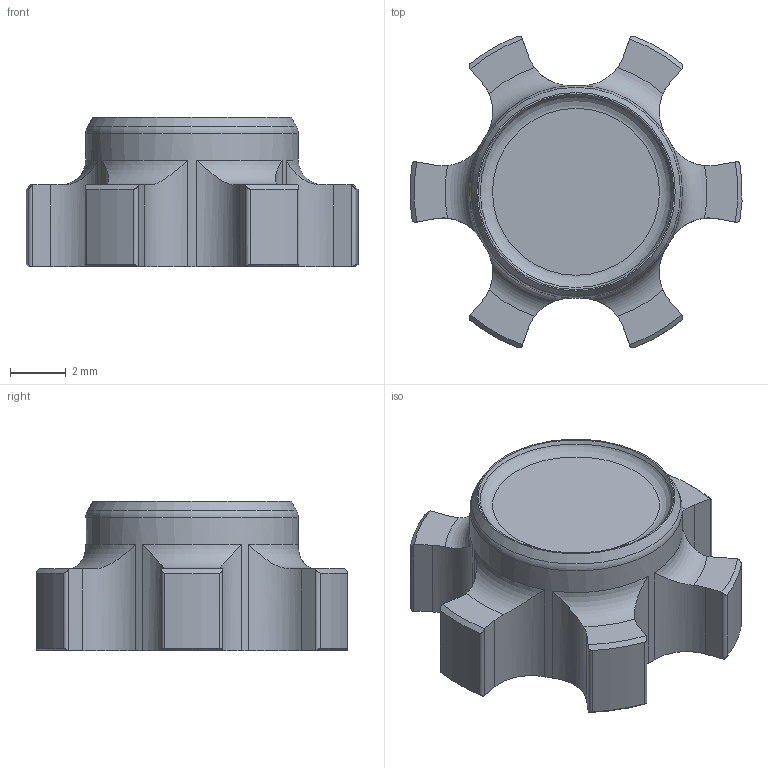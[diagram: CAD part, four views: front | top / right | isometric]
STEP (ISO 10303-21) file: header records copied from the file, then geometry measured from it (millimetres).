
FILE_DESCRIPTION(/* description */ (''),/* implementation_level */ '2;1');
FILE_NAME(/* name */ 'Knife Edge Check Valve Poppet.step',/* time_stamp */ '2026-05-22T17:14:57-04:00',/* author */ (''),/* organization */ (''),/* preprocessor_version */ 'ST-DEVELOPER v20.1',/* originating_system */ 'Autodesk Translation Framework v15.8.0.0',/* authorisation */ '');
FILE_SCHEMA (('AUTOMOTIVE_DESIGN { 1 0 10303 214 3 1 1 }'));
Length unit declared in the file: inch
Products named in the file (1): Knife Edge Check Valve Poppet
Bounding box: 11.89 x 11.17 x 5.34 mm (x, y, z)
Volume: 311.3 mm3; surface area: 337.3 mm2
Topology: 1 solids, 1 shells, 74 faces, 213 edges, 142 vertices
Faces by surface type: cylinder 31, plane 21, cone 14, torus 8
Full cylindrical faces by diameter (mm): 7.62 x1
Entity records: 2802 total; most frequent: CARTESIAN_POINT 802, ORIENTED_EDGE 426, DIRECTION 417, EDGE_CURVE 213, AXIS2_PLACEMENT_3D 165, VERTEX_POINT 142, CIRCLE 90, LINE 87
